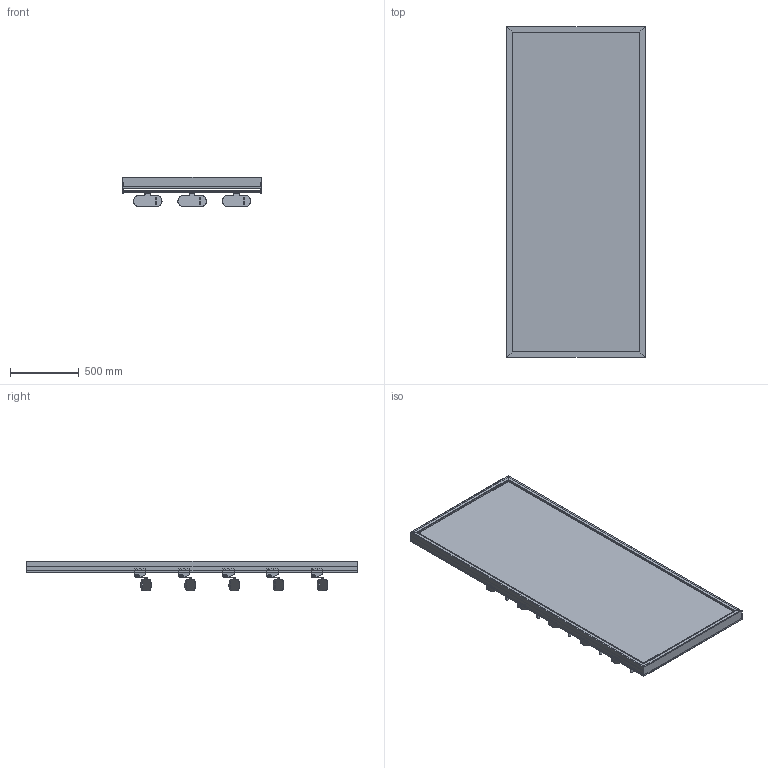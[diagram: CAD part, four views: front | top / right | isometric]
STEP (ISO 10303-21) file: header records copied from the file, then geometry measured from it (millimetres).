
FILE_DESCRIPTION (( 'STEP AP214' ), '1' );
FILE_NAME ('Slotted UpBright? 1005mm Golf Shoe Display Wall (Angled).STEP', '2026-03-31T04:46:27', ( '' ), ( '' ), 'SwSTEP 2.0', 'SolidWorks 2025', '' );
FILE_SCHEMA (( 'AUTOMOTIVE_DESIGN' ));
Length unit declared in the file: millimetre
Products named in the file (6): 0001-31-GA10 - 1005W Slotted upbright; 0001-31-SA26 - 1005W Rear support Bar; 373-01-GA01; Slotted UpBright® 1005mm Golf Shoe Display Wall (Angled); 0001-31-103; 0001-31-131
Assembly tree (24 placements, depth 3):
  Slotted UpBright® 1005mm Golf Shoe Display Wall (Angled)
    373-01-GA01  x15
    0001-31-GA10 - 1005W Slotted upbright
    0001-31-SA26 - 1005W Rear support Bar  x5
      0001-31-103
      0001-31-131
Bounding box: 1005.74 x 2400 x 212.4 mm (x, y, z)
Volume: 9586652.2 mm3; surface area: 13406484.9 mm2
Topology: 36 solids, 36 shells, 1431 faces, 4356 edges, 2864 vertices
Faces by surface type: plane 1143, cylinder 258, bspline 30
Entity records: 26740 total; most frequent: CARTESIAN_POINT 5189, ORIENTED_EDGE 4886, DIRECTION 3805, EDGE_CURVE 2443, VECTOR 2309, LINE 2309, VERTEX_POINT 1626, EDGE_LOOP 853
